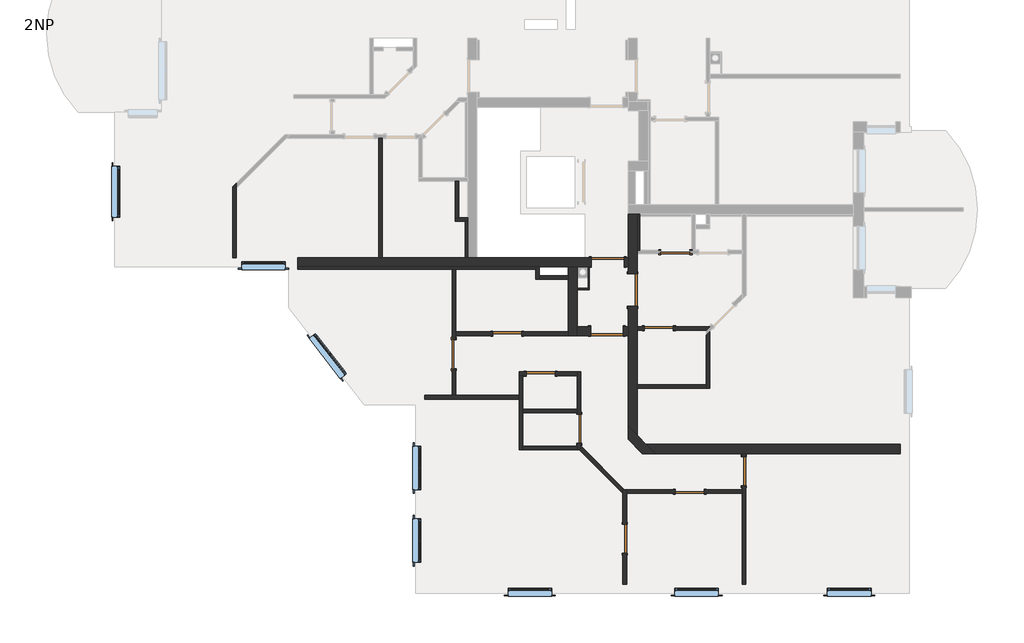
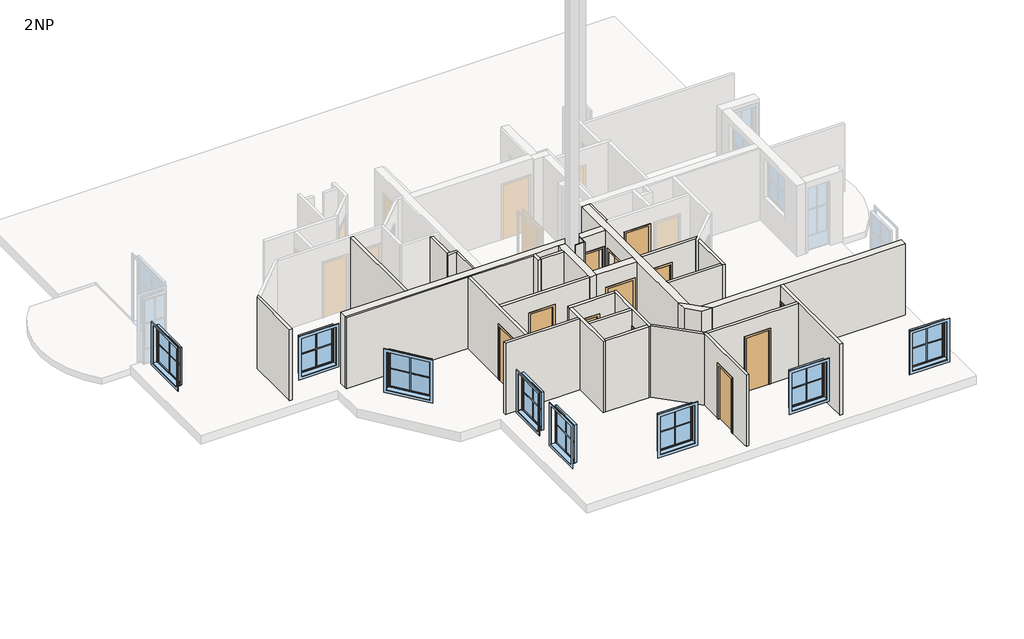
# One storey, part 1 of 4: 32 walls, 12 doors, 8 windows.
"""IFC4 building model written with IfcOpenShell, lengths in millimetres."""

import ifcopenshell
import ifcopenshell.guid

model = None  # the IFC model being written
_history = None  # IfcOwnerHistory: only IFC2X3 demands one
_inside = {}  # id of a spatial element -> (the spatial element, [elements in it])
_under = {}  # id of a project, library or spatial element -> (it, [spatial elements below it])
_declared = {}  # id of a project -> (the project, [libraries it declares])
_typed = {}  # id of a type object -> (the type object, [elements of that type])
_made_of = {}  # id of a material, layer set ... -> (it, [elements and type objects made of it])


def new_model(schema):
    """Start an empty IFC model of exactly this schema.

    Asked for "IFC4X3", IfcOpenShell would pick the latest addendum, in which some entities
    have other attributes; the version numbers below select the first issue.
    IFC2X3 requires an IfcOwnerHistory on every rooted entity: one is made here for all.
    """
    global model, _history
    if schema == "IFC4X3":
        model = ifcopenshell.file(schema_version=(4, 3, 0, 0))
    else:
        model = ifcopenshell.file(schema=schema)
    _inside.clear()
    _under.clear()
    _declared.clear()
    _typed.clear()
    _made_of.clear()
    _history = None
    if model.schema == "IFC2X3":
        org = make("IfcOrganization", Name="unknown")
        user = make(
            "IfcPersonAndOrganization",
            ThePerson=make("IfcPerson", FamilyName="unknown"),
            TheOrganization=org,
        )
        app = make(
            "IfcApplication",
            ApplicationDeveloper=org,
            Version="unknown",
            ApplicationFullName="unknown",
            ApplicationIdentifier="unknown",
        )
        _history = make(
            "IfcOwnerHistory",
            OwningUser=user,
            OwningApplication=app,
            ChangeAction="ADDED",
            CreationDate=0,
        )
    return model


def make(cls, **values):
    """One entity of the class cls with the attributes given. An attribute that is None is left unset."""
    return model.create_entity(
        cls, **{name: value for name, value in values.items() if value is not None}
    )


def rooted(cls, **values):
    """An entity with a GlobalId (a new one), such as an element, a storey or a relation."""
    return make(cls, GlobalId=ifcopenshell.guid.new(), OwnerHistory=_history, **values)


def si_unit(unit_type, name, prefix=None):
    """IfcSIUnit, for example si_unit("LENGTHUNIT", "METRE", prefix="MILLI")."""
    return make("IfcSIUnit", UnitType=unit_type, Prefix=prefix, Name=name)


def assignment(units):
    """IfcUnitAssignment: the units of a project."""
    return None if units is None else make("IfcUnitAssignment", Units=units)


def point(xyz):
    """IfcCartesianPoint."""
    return None if xyz is None else make("IfcCartesianPoint", Coordinates=xyz)


def direction(xyz):
    """IfcDirection."""
    return None if xyz is None else make("IfcDirection", DirectionRatios=xyz)


def frame(location, z_axis=None, x_axis=None):
    """IfcAxis2Placement3D, a coordinate frame: its origin and axes. An axis left out is left unset."""
    return make(
        "IfcAxis2Placement3D",
        Location=point(location),
        Axis=direction(z_axis),
        RefDirection=direction(x_axis),
    )


def origin():
    """The frame at (0, 0, 0) with its axes left unset."""
    return frame((0.0, 0.0, 0.0))


def origin_with_axes():
    """The frame at (0, 0, 0) with the z axis (0, 0, 1) and the x axis (1, 0, 0) written out."""
    return frame((0.0, 0.0, 0.0), z_axis=(0.0, 0.0, 1.0), x_axis=(1.0, 0.0, 0.0))


def place(relative_to, where):
    """IfcLocalPlacement: puts the frame where relative to a parent placement (None: the world)."""
    return make(
        "IfcLocalPlacement", PlacementRelTo=relative_to, RelativePlacement=where
    )


def context(
    kind, dimensions, precision=None, world=None, true_north=None, identifier=None
):
    """IfcGeometricRepresentationContext, for example the 3D "Model" context."""
    return make(
        "IfcGeometricRepresentationContext",
        ContextIdentifier=identifier,
        ContextType=kind,
        CoordinateSpaceDimension=dimensions,
        Precision=precision,
        WorldCoordinateSystem=world,
        TrueNorth=true_north,
    )


def project(units=None, contexts=None):
    """IfcProject with its units and contexts."""
    return rooted(
        "IfcProject",
        Name="project",
        RepresentationContexts=contexts,
        UnitsInContext=assignment(units),
    )


def spatial(cls, under=None, at=None, **own):
    """A site, building, storey or space (cls), placed at a placement, below another one or the project."""
    s = rooted(cls, ObjectPlacement=at, **own)
    if under is not None:
        _under.setdefault(under.id(), (under, []))[1].append(s)
    return s


def polyline(points):
    """IfcPolyline through the points."""
    return make("IfcPolyline", Points=[point(p) for p in points])


def outline(outer, holes=None, kind="AREA"):
    """IfcArbitraryClosedProfileDef: a profile drawn as a closed curve; with holes, ...WithVoids."""
    if holes is None:
        return make("IfcArbitraryClosedProfileDef", ProfileType=kind, OuterCurve=outer)
    return make(
        "IfcArbitraryProfileDefWithVoids",
        ProfileType=kind,
        OuterCurve=outer,
        InnerCurves=holes,
    )


def extrude(swept, where, along, depth):
    """IfcExtrudedAreaSolid: the profile swept, set in the frame where, extruded along a direction by depth."""
    return make(
        "IfcExtrudedAreaSolid",
        SweptArea=swept,
        Position=where,
        ExtrudedDirection=direction(along),
        Depth=depth,
    )


def faces_of(points, faces, orient=None, outer=None):
    """IfcFace entities. A face is a list of loops; a loop is a list of indices into points, from 0.

    orient and outer hold one flag for each loop. By default every Orientation is true, the
    first loop of a face is its IfcFaceOuterBound and the others are IfcFaceBound.
    """
    made = []
    for i, loops in enumerate(faces):
        bounds = []
        for j, loop in enumerate(loops):
            is_outer = j == 0 if outer is None else outer[i][j]
            bounds.append(
                make(
                    "IfcFaceOuterBound" if is_outer else "IfcFaceBound",
                    Bound=make("IfcPolyLoop", Polygon=[points[k] for k in loop]),
                    Orientation=True if orient is None else orient[i][j],
                )
            )
        made.append(make("IfcFace", Bounds=bounds))
    return made


def faceted_brep(points, faces, orient=None, outer=None, voids=None):
    """IfcFacetedBrep: a solid bounded by flat faces; with voids (closed shells), ...WithVoids."""
    shared = [point(p) for p in points]
    hull = make("IfcClosedShell", CfsFaces=faces_of(shared, faces, orient, outer))
    if voids is None:
        return make("IfcFacetedBrep", Outer=hull)
    return make(
        "IfcFacetedBrepWithVoids",
        Outer=hull,
        Voids=[
            make(cls, CfsFaces=faces_of(shared, fs, o, b)) for cls, fs, o, b in voids
        ],
    )


def shape(context_of_items, identifier, shape_type, items):
    """IfcShapeRepresentation: the items that make up one representation, for example the "Body"."""
    return make(
        "IfcShapeRepresentation",
        ContextOfItems=context_of_items,
        RepresentationIdentifier=identifier,
        RepresentationType=shape_type,
        Items=items,
    )


def source(mapping_origin, context_of_items, identifier, shape_type, items):
    """IfcRepresentationMap: a shape defined once, which mapped items show again and again."""
    return make(
        "IfcRepresentationMap",
        MappingOrigin=mapping_origin,
        MappedRepresentation=shape(context_of_items, identifier, shape_type, items),
    )


def transform(
    local_origin,
    x_axis=None,
    y_axis=None,
    z_axis=None,
    scale=None,
    scale2=None,
    scale3=None,
    uniform=True,
):
    """IfcCartesianTransformationOperator3D, or its non-uniform kind. x_axis, y_axis, z_axis: its Axis1, 2, 3."""
    if uniform:
        return make(
            "IfcCartesianTransformationOperator3D",
            Axis1=direction(x_axis),
            Axis2=direction(y_axis),
            LocalOrigin=point(local_origin),
            Scale=scale,
            Axis3=direction(z_axis),
        )
    return make(
        "IfcCartesianTransformationOperator3DnonUniform",
        Axis1=direction(x_axis),
        Axis2=direction(y_axis),
        LocalOrigin=point(local_origin),
        Scale=scale,
        Axis3=direction(z_axis),
        Scale2=scale2,
        Scale3=scale3,
    )


def mapped(mapping_source, mapping_target):
    """IfcMappedItem: shows the shape of a source again, moved by a transform."""
    return make(
        "IfcMappedItem", MappingSource=mapping_source, MappingTarget=mapping_target
    )


def made_of(thing, what):
    """Note that an element or type object is made of a material, layer set ...; save() writes the relation."""
    if what is not None:
        _made_of.setdefault(what.id(), (what, []))[1].append(thing)
    return thing


def element(
    cls,
    number,
    at=None,
    inside=None,
    cuts=None,
    type_object=None,
    material=None,
    context=None,
    identifier="Body",
    shape_type=None,
    held_by="IfcProductDefinitionShape",
    body=None,
    shapes=None,
    **own,
):
    """One element of the class cls, such as IfcWall. Its Tag is "e" and its number.

    at: its placement. inside: the storey or other place that contains it. cuts: it is an
    opening in that element (IfcRelVoidsElement). A single representation is given by context,
    identifier, shape_type and body (its items); several are given by shapes. held_by: the class
    of the entity that holds the representations. save() writes the other relations.
    """
    e = rooted(cls, Tag="e%d" % number, ObjectPlacement=at, **own)
    if body is not None:
        shapes = [shape(context, identifier, shape_type, body)]
    if shapes is not None:
        e.Representation = make(held_by, Representations=shapes)
    if inside is not None:
        _inside.setdefault(inside.id(), (inside, []))[1].append(e)
    if cuts is not None:
        rooted(
            "IfcRelVoidsElement", RelatingBuildingElement=cuts, RelatedOpeningElement=e
        )
    if type_object is not None:
        _typed.setdefault(type_object.id(), (type_object, []))[1].append(e)
    return made_of(e, material)


def aggregate(whole, parts):
    """IfcRelAggregates: a whole, such as a stair, and the parts it consists of."""
    return rooted("IfcRelAggregates", RelatingObject=whole, RelatedObjects=parts)


def save(model, path):
    """Write the relations noted so far, then the file.

    IfcRelAggregates (storeys below a building ...), IfcRelContainedInSpatialStructure (elements
    in a storey), IfcRelDefinesByType, IfcRelAssociatesMaterial and IfcRelDeclares: one each for
    every whole, place, type object, material and project.
    """
    for whole, parts in _under.values():
        aggregate(whole, parts)
    for where, things in _inside.values():
        rooted(
            "IfcRelContainedInSpatialStructure",
            RelatedElements=things,
            RelatingStructure=where,
        )
    for kind, things in _typed.values():
        rooted("IfcRelDefinesByType", RelatedObjects=things, RelatingType=kind)
    for what, things in _made_of.values():
        rooted("IfcRelAssociatesMaterial", RelatedObjects=things, RelatingMaterial=what)
    for by, libraries in _declared.values():
        rooted("IfcRelDeclares", RelatingContext=by, RelatedDefinitions=libraries)
    model.write(path)


def sd_800x2000_6a16926d(model_context):
    return source(origin(), model_context, "Body", "SweptSolid", [
        extrude(outline(polyline([(2060.0, -460.0), (0.0, -460.0), (0.0, -400.0), (2000.0, -400.0), (2000.0, 400.0), (0.0, 400.0), (0.0, 460.0), (2060.0, 460.0), (2060.0, -460.0)])), frame((0.0, -70.0, 0.0), z_axis=(0.0, 1.0, 0.0), x_axis=(0.0, 0.0, 1.0)), (0.0, 0.0, 1.0), 20.0),
        extrude(outline(polyline([(2060.0, 460.0), (2060.0, -460.0), (0.0, -460.0), (0.0, -400.0), (2000.0, -400.0), (2000.0, 400.0), (0.0, 400.0), (0.0, 460.0), (2060.0, 460.0)])), frame((0.0, 50.0, 0.0), z_axis=(0.0, 1.0, 0.0), x_axis=(0.0, 0.0, 1.0)), (0.0, 0.0, 1.0), 20.0),
        extrude(outline(polyline([(400.0, 0.0), (400.0, -50.0), (-400.0, -50.0), (-400.0, 0.0), (400.0, 0.0)])), origin_with_axes(), (0.0, 0.0, 1.0), 2000.0),
    ])


def sd_800x2000_80f4ff25(model_context):
    return source(origin(), model_context, "Body", "SweptSolid", [
        extrude(outline(polyline([(2060.0, -460.0), (0.0, -460.0), (0.0, -400.0), (2000.0, -400.0), (2000.0, 400.0), (0.0, 400.0), (0.0, 460.0), (2060.0, 460.0), (2060.0, -460.0)])), frame((0.0, 50.0, 0.0), z_axis=(0.0, 1.0, 0.0), x_axis=(0.0, 0.0, 1.0)), (0.0, 0.0, 1.0), 20.0),
        extrude(outline(polyline([(2060.0, 460.0), (2060.0, -460.0), (0.0, -460.0), (0.0, -400.0), (2000.0, -400.0), (2000.0, 400.0), (0.0, 400.0), (0.0, 460.0), (2060.0, 460.0)])), frame((0.0, -70.0, 0.0), z_axis=(0.0, 1.0, 0.0), x_axis=(0.0, 0.0, 1.0)), (0.0, 0.0, 1.0), 20.0),
        extrude(outline(polyline([(400.0, 0.0), (-400.0, 0.0), (-400.0, 50.0), (400.0, 50.0), (400.0, 0.0)])), origin_with_axes(), (0.0, 0.0, 1.0), 2000.0),
    ])


def sd_900x2000_a6683946(model_context):
    return source(origin(), model_context, "Body", "SweptSolid", [
        extrude(outline(polyline([(2060.0, -510.0), (0.0, -510.0), (0.0, -450.0), (2000.0, -450.0), (2000.0, 450.0), (0.0, 450.0), (0.0, 510.0), (2060.0, 510.0), (2060.0, -510.0)])), frame((0.0, -145.0, 0.0), z_axis=(0.0, 1.0, 0.0), x_axis=(0.0, 0.0, 1.0)), (0.0, 0.0, 1.0), 20.0),
        extrude(outline(polyline([(2060.0, 510.0), (2060.0, -510.0), (0.0, -510.0), (0.0, -450.0), (2000.0, -450.0), (2000.0, 450.0), (0.0, 450.0), (0.0, 510.0), (2060.0, 510.0)])), frame((0.0, 125.0, 0.0), z_axis=(0.0, 1.0, 0.0), x_axis=(0.0, 0.0, 1.0)), (0.0, 0.0, 1.0), 20.0),
        extrude(outline(polyline([(450.0, -75.0), (450.0, -125.0), (-450.0, -125.0), (-450.0, -75.0), (450.0, -75.0)])), origin_with_axes(), (0.0, 0.0, 1.0), 2000.0),
    ])


def sd_900x2000_4224ae2a(model_context):
    return source(origin(), model_context, "Body", "SweptSolid", [
        extrude(outline(polyline([(2060.0, -510.0), (0.0, -510.0), (0.0, -450.0), (2000.0, -450.0), (2000.0, 450.0), (0.0, 450.0), (0.0, 510.0), (2060.0, 510.0), (2060.0, -510.0)])), frame((0.0, 125.0, 0.0), z_axis=(0.0, 1.0, 0.0), x_axis=(0.0, 0.0, 1.0)), (0.0, 0.0, 1.0), 20.0),
        extrude(outline(polyline([(2060.0, 510.0), (2060.0, -510.0), (0.0, -510.0), (0.0, -450.0), (2000.0, -450.0), (2000.0, 450.0), (0.0, 450.0), (0.0, 510.0), (2060.0, 510.0)])), frame((0.0, -145.0, 0.0), z_axis=(0.0, 1.0, 0.0), x_axis=(0.0, 0.0, 1.0)), (0.0, 0.0, 1.0), 20.0),
        extrude(outline(polyline([(450.0, 75.0), (-450.0, 75.0), (-450.0, 125.0), (450.0, 125.0), (450.0, 75.0)])), origin_with_axes(), (0.0, 0.0, 1.0), 2000.0),
    ])


def standard_window_with_mullions_d3525f46(model_context):
    return source(origin(), model_context, "Body", "SweptSolid", [
        extrude(outline(polyline([(700.0, 26.9623738), (-700.0, 26.9623738), (-700.0, 180.0), (700.0, 180.0), (700.0, 26.9623738)])), frame((0.0, 0.0, 1000.0), z_axis=(0.0, 0.0, 1.0), x_axis=(1.0, 0.0, 0.0)), (0.0, 0.0, 1.0), 25.0),
        extrude(outline(polyline([(2500.0, -800.0), (900.0, -800.0), (900.0, 800.0), (2500.0, 800.0), (2500.0, -800.0)]), holes=[polyline([(2400.0, -700.0), (2400.0, 700.0), (1000.0, 700.0), (1000.0, -700.0), (2400.0, -700.0)])]), frame((0.0, 150.0, 0.0), z_axis=(0.0, 1.0, 0.0), x_axis=(0.0, 0.0, 1.0)), (0.0, 0.0, 1.0), 15.0),
        extrude(outline(polyline([(2375.0, -675.0), (1025.0, -675.0), (1025.0, 675.0), (2375.0, 675.0), (2375.0, -675.0)]), holes=[polyline([(2340.0, -640.0), (2340.0, 640.0), (1060.0, 640.0), (1060.0, -640.0), (2340.0, -640.0)])]), frame((0.0, -39.0188131, 0.0), z_axis=(0.0, 1.0, 0.0), x_axis=(0.0, 0.0, 1.0)), (0.0, 0.0, 1.0), 50.5),
        extrude(outline(polyline([(1000.0, -700.0), (1000.0, 700.0), (2400.0, 700.0), (2400.0, -700.0), (1000.0, -700.0)]), holes=[polyline([(1025.0, -675.0), (2375.0, -675.0), (2375.0, 675.0), (1025.0, 675.0), (1025.0, -675.0)])]), frame((0.0, -39.0188131, 0.0), z_axis=(0.0, 1.0, 0.0), x_axis=(0.0, 0.0, 1.0)), (0.0, 0.0, 1.0), 65.9811869),
        extrude(outline(polyline([(1715.0, 640.0), (1715.0, 15.0), (2340.0, 15.0), (2340.0, -15.0), (1715.0, -15.0), (1715.0, -640.0), (1685.0, -640.0), (1685.0, -15.0), (1060.0, -15.0), (1060.0, 15.0), (1685.0, 15.0), (1685.0, 640.0), (1715.0, 640.0)])), frame((0.0, -28.5188131, 0.0), z_axis=(0.0, 1.0, 0.0), x_axis=(0.0, 0.0, 1.0)), (0.0, 0.0, 1.0), 20.0),
        extrude(outline(polyline([(640.0, -15.5188131), (-640.0, -15.5188131), (-640.0, -13.5188131), (640.0, -13.5188131), (640.0, -15.5188131)])), frame((0.0, 0.0, 1060.0), z_axis=(0.0, 0.0, 1.0), x_axis=(1.0, 0.0, 0.0)), (0.0, 0.0, 1.0), 1280.0),
    ])


def standard_window_with_mullions_80486b60(model_context):
    return source(origin(), model_context, "Body", "SweptSolid", [
        extrude(outline(polyline([(600.0, 26.9623738), (-600.0, 26.9623738), (-600.0, 180.0), (600.0, 180.0), (600.0, 26.9623738)])), frame((0.0, 0.0, 1000.0), z_axis=(0.0, 0.0, 1.0), x_axis=(1.0, 0.0, 0.0)), (0.0, 0.0, 1.0), 25.0),
        extrude(outline(polyline([(2500.0, -700.0), (900.0, -700.0), (900.0, 700.0), (2500.0, 700.0), (2500.0, -700.0)]), holes=[polyline([(2400.0, -600.0), (2400.0, 600.0), (1000.0, 600.0), (1000.0, -600.0), (2400.0, -600.0)])]), frame((0.0, 150.0, 0.0), z_axis=(0.0, 1.0, 0.0), x_axis=(0.0, 0.0, 1.0)), (0.0, 0.0, 1.0), 15.0),
        extrude(outline(polyline([(2375.0, -575.0), (1025.0, -575.0), (1025.0, 575.0), (2375.0, 575.0), (2375.0, -575.0)]), holes=[polyline([(2340.0, -540.0), (2340.0, 540.0), (1060.0, 540.0), (1060.0, -540.0), (2340.0, -540.0)])]), frame((0.0, -39.0188131, 0.0), z_axis=(0.0, 1.0, 0.0), x_axis=(0.0, 0.0, 1.0)), (0.0, 0.0, 1.0), 50.5),
        extrude(outline(polyline([(1000.0, -600.0), (1000.0, 600.0), (2400.0, 600.0), (2400.0, -600.0), (1000.0, -600.0)]), holes=[polyline([(1025.0, -575.0), (2375.0, -575.0), (2375.0, 575.0), (1025.0, 575.0), (1025.0, -575.0)])]), frame((0.0, -39.0188131, 0.0), z_axis=(0.0, 1.0, 0.0), x_axis=(0.0, 0.0, 1.0)), (0.0, 0.0, 1.0), 65.9811869),
        extrude(outline(polyline([(1715.0, 540.0), (1715.0, 15.0), (2340.0, 15.0), (2340.0, -15.0), (1715.0, -15.0), (1715.0, -540.0), (1685.0, -540.0), (1685.0, -15.0), (1060.0, -15.0), (1060.0, 15.0), (1685.0, 15.0), (1685.0, 540.0), (1715.0, 540.0)])), frame((0.0, -28.5188131, 0.0), z_axis=(0.0, 1.0, 0.0), x_axis=(0.0, 0.0, 1.0)), (0.0, 0.0, 1.0), 20.0),
        extrude(outline(polyline([(540.0, -15.5188131), (-540.0, -15.5188131), (-540.0, -13.5188131), (540.0, -13.5188131), (540.0, -15.5188131)])), frame((0.0, 0.0, 1060.0), z_axis=(0.0, 0.0, 1.0), x_axis=(1.0, 0.0, 0.0)), (0.0, 0.0, 1.0), 1280.0),
    ])


model = new_model("IFC4")

# Units and contexts
model_context = context("Model", 3, world=origin())
ifc_project = project(units=[si_unit("LENGTHUNIT", "METRE", prefix="MILLI")], contexts=[model_context])

# Site, building, storey
site = spatial("IfcSite", under=ifc_project)
building = spatial("IfcBuilding", under=site)
storey = spatial("IfcBuildingStorey", under=building, Name="2NP", Elevation=2950.0)

# Doors
placement = place(None, origin())
sd_800x2000_shape = sd_800x2000_6a16926d(model_context)
element("IfcDoor", 1, ObjectType="JednokridlePlne : SD 800x2000", at=placement, inside=storey, context=model_context, shape_type="MappedRepresentation", body=[
    mapped(sd_800x2000_shape, transform((3260.550214, -8282.3709459, 2950.0), x_axis=(0.9999999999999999, 0.0, 0.0), y_axis=(0.0, 0.9999999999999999, 0.0), z_axis=(0.0, 0.0, 1.0))),
])
sd_800x2000_2_shape = sd_800x2000_80f4ff25(model_context)
element("IfcDoor", 2, ObjectType="JednokridlePlne : SD 800x2000", at=placement, inside=storey, context=model_context, shape_type="MappedRepresentation", body=[
    mapped(sd_800x2000_2_shape, transform((2865.7332503, -1682.3709459, 2950.0), x_axis=(-1.0, 0.0, 0.0), y_axis=(0.0, -1.0, 0.0), z_axis=(0.0, 0.0, 1.0))),
])
element("IfcDoor", 3, ObjectType="JednokridlePlne : SD 800x2000", at=placement, inside=storey, context=model_context, shape_type="MappedRepresentation", body=[
    mapped(sd_800x2000_2_shape, transform((2412.0268037, -3782.3709459, 2950.0), x_axis=(1.0, 0.0, 0.0), y_axis=(0.0, 1.0, 0.0), z_axis=(0.0, 0.0, 1.0))),
])
element("IfcDoor", 4, ObjectType="JednokridlePlne : SD 800x2000", at=placement, inside=storey, context=model_context, shape_type="MappedRepresentation", body=[
    mapped(sd_800x2000_2_shape, transform((-1766.5169517, -3932.3709459, 2950.0), x_axis=(1.0, 0.0, 0.0), y_axis=(0.0, 1.0, 0.0), z_axis=(0.0, 0.0, 1.0))),
])
element("IfcDoor", 5, ObjectType="JednokridlePlne : SD 800x2000", at=placement, inside=storey, context=model_context, shape_type="MappedRepresentation", body=[
    mapped(sd_800x2000_2_shape, transform((-847.1962165, -5032.3709459, 2950.0), x_axis=(1.0, 0.0, 0.0), y_axis=(0.0, 1.0, 0.0), z_axis=(0.0, 0.0, 1.0))),
])
element("IfcDoor", 6, ObjectType="JednokridlePlne : SD 800x2000", at=placement, inside=storey, context=model_context, shape_type="MappedRepresentation", body=[
    mapped(sd_800x2000_2_shape, transform((-3237.1962165, -4492.2910381, 2950.0), x_axis=(0.0, 1.0, 0.0), y_axis=(-1.0, 0.0, 0.0), z_axis=(0.0, 0.0, 1.0))),
])
element("IfcDoor", 7, ObjectType="JednokridlePlne : SD 800x2000", at=placement, inside=storey, context=model_context, shape_type="MappedRepresentation", body=[
    mapped(sd_800x2000_2_shape, transform((212.8037835, -6551.9513234, 2950.0), x_axis=(0.0, -1.0, 0.0), y_axis=(1.0, 0.0, 0.0), z_axis=(0.0, 0.0, 1.0))),
])
element("IfcDoor", 8, ObjectType="JednokridlePlne : SD 800x2000", at=placement, inside=storey, context=model_context, shape_type="MappedRepresentation", body=[
    mapped(sd_800x2000_2_shape, transform((4753.039213, -7722.1014891, 2950.0), x_axis=(0.0, -1.0, 0.0), y_axis=(1.0, 0.0, 0.0), z_axis=(0.0, 0.0, 1.0))),
])
element("IfcDoor", 9, ObjectType="JednokridlePlne : SD 800x2000", at=placement, inside=storey, context=model_context, shape_type="MappedRepresentation", body=[
    mapped(sd_800x2000_2_shape, transform((1471.3824272, -9582.3709459, 2950.0), x_axis=(0.0, -0.9999999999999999, 0.0), y_axis=(0.9999999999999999, 0.0, 0.0), z_axis=(0.0, 0.0, 1.0))),
])
sd_900x2000_shape = sd_900x2000_a6683946(model_context)
element("IfcDoor", 10, ObjectType="JednokridlePlne : SD 900x2000", at=placement, inside=storey, context=model_context, shape_type="MappedRepresentation", body=[
    mapped(sd_900x2000_shape, transform((1002.8073371, -1957.3709459, 2950.0), x_axis=(-1.0, 0.0, 0.0), y_axis=(0.0, -1.0, 0.0), z_axis=(0.0, 0.0, 1.0))),
])
sd_900x2000_2_shape = sd_900x2000_4224ae2a(model_context)
element("IfcDoor", 11, ObjectType="JednokridlePlne : SD 900x2000", at=placement, inside=storey, context=model_context, shape_type="MappedRepresentation", body=[
    mapped(sd_900x2000_2_shape, transform((980.1794135, -3857.3709459, 2950.0), x_axis=(-1.0, 0.0, 0.0), y_axis=(0.0, -1.0, 0.0), z_axis=(0.0, 0.0, 1.0))),
])
element("IfcDoor", 12, ObjectType="JednokridlePlne : SD 900x2000", at=placement, inside=storey, context=model_context, shape_type="MappedRepresentation", body=[
    mapped(sd_900x2000_2_shape, transform((1687.8070318, -2727.079256, 2950.0), x_axis=(-8.145451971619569e-07, -0.9999999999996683, 0.0), y_axis=(0.9999999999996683, -8.145451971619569e-07, 0.0), z_axis=(0.0, 0.0, 1.0))),
])

# Walls
element("IfcWall", 13, ObjectType="Interior - 100mm", at=placement, inside=storey, context=model_context, shape_type="SweptSolid", body=[
    extrude(outline(polyline([(-3207.1962165, -732.3709459), (-3207.1962165, 267.6290541), (-3107.1962165, 267.6290541), (-3107.1962165, -732.3709459), (-3207.1962165, -732.3709459)])), frame((0.0, 0.0, 2950.0), z_axis=(0.0, 0.0, 1.0), x_axis=(1.0, 0.0, 0.0)), (0.0, 0.0, 1.0), 2630.0),
])
element("IfcWall", 14, ObjectType="Interior - 100mm", at=placement, inside=storey, context=model_context, shape_type="Brep", body=[
    faceted_brep([(-3207.1962165, -832.3709459, 2950.0), (-2922.1962165, -832.3709459, 2950.0), (-2857.1962165, -832.3709459, 2950.0), (-2857.1962165, -832.3709459, 5580.0), (-2922.1962165, -832.3709459, 5580.0), (-3207.1962165, -832.3709459, 5580.0), (-3207.1962165, -732.3709459, 2950.0), (-3207.1962165, -732.3709459, 5580.0), (-3107.1962165, -732.3709459, 5580.0), (-2857.1962165, -732.3709459, 5580.0), (-2857.1962165, -732.3709459, 2950.0), (-3107.1962165, -732.3709459, 2950.0)], [[[0, 1, 2, 3, 4, 5]], [[6, 7, 8, 9, 10, 11]], [[2, 1, 0, 6, 11, 10]], [[0, 5, 7, 6]], [[3, 2, 10, 9]], [[5, 4, 3, 9, 8, 7]]]),
])
element("IfcWall", 15, ObjectType="Interior - 100mm", at=placement, inside=storey, context=model_context, shape_type="Brep", body=[
    faceted_brep([(-986.4381272, -2082.3709459, 2950.0), (-986.4381272, -2147.3709459, 2950.0), (-986.4381272, -2432.3709459, 2950.0), (-986.4381272, -2432.3709459, 5580.0), (-986.4381272, -2147.3709459, 5580.0), (-986.4381272, -2082.3709459, 5580.0), (-886.4381272, -2082.3709459, 2950.0), (-886.4381272, -2082.3709459, 5580.0), (-886.4381272, -2332.3709459, 5580.0), (-886.4381272, -2432.3709459, 5580.0), (-886.4381272, -2432.3709459, 2950.0), (-886.4381272, -2332.3709459, 2950.0)], [[[0, 1, 2, 3, 4, 5]], [[6, 7, 8, 9, 10, 11]], [[2, 1, 0, 6, 11, 10]], [[3, 2, 10, 9]], [[0, 5, 7, 6]], [[5, 4, 3, 9, 8, 7]]]),
])
element("IfcWall", 16, ObjectType="Interior - 100mm", at=placement, inside=storey, context=model_context, shape_type="SweptSolid", body=[
    extrude(outline(polyline([(-86.4381272, -2432.3709459), (-886.4381272, -2432.3709459), (-886.4381272, -2332.3709459), (-86.4381272, -2332.3709459), (-86.4381272, -2432.3709459)])), frame((0.0, 0.0, 2950.0), z_axis=(0.0, 0.0, 1.0), x_axis=(1.0, 0.0, 0.0)), (0.0, 0.0, 1.0), 2630.0),
])
element("IfcWall", 17, ObjectType="Interior - 100mm", at=placement, inside=storey, context=model_context, shape_type="Brep", body=[
    faceted_brep([(4703.039213, -10832.3709459, 2950.0), (4703.039213, -10832.3709459, 5580.0), (4703.039213, -8332.3709459, 5580.0), (4703.039213, -8232.3709459, 5580.0), (4703.039213, -7232.3709459, 5580.0), (4703.039213, -7232.3709459, 2950.0), (4703.039213, -7322.1014891, 2950.0), (4703.039213, -7322.1014891, 4950.0), (4703.039213, -8122.1014891, 4950.0), (4703.039213, -8122.1014891, 2950.0), (4703.039213, -8232.3709459, 2950.0), (4703.039213, -8332.3709459, 2950.0), (4803.039213, -10832.3709459, 5580.0), (4803.039213, -10832.3709459, 2950.0), (4803.039213, -8122.1014891, 2950.0), (4803.039213, -8122.1014891, 4950.0), (4803.039213, -7322.1014891, 4950.0), (4803.039213, -7322.1014891, 2950.0), (4803.039213, -7232.3709459, 2950.0), (4803.039213, -7232.3709459, 5580.0)], [[[0, 1, 2, 3, 4, 5, 6, 7, 8, 9, 10, 11]], [[12, 13, 14, 15, 16, 17, 18, 19]], [[13, 0, 11, 10, 9, 14]], [[5, 18, 17, 6]], [[1, 0, 13, 12]], [[5, 4, 19, 18]], [[4, 3, 2, 1, 12, 19]], [[8, 15, 14, 9]], [[15, 8, 7, 16]], [[16, 7, 6, 17]]]),
])
element("IfcWall", 18, ObjectType="Interior - 100mm", at=placement, inside=storey, context=model_context, shape_type="Brep", body=[
    faceted_brep([(1421.3824272, -9982.3709459, 4950.0), (1421.3824272, -9982.3709459, 2950.0), (1421.3824272, -10832.3709459, 2950.0), (1421.3824272, -10832.3709459, 5580.0), (1421.3824272, -8332.3709459, 5580.0), (1421.3824272, -8190.9495897, 5580.0), (1421.3824272, -8190.9495897, 2950.0), (1421.3824272, -8332.3709459, 2950.0), (1421.3824272, -9182.3709459, 2950.0), (1421.3824272, -9182.3709459, 4950.0), (1521.3824272, -10832.3709459, 2950.0), (1521.3824272, -9982.3709459, 2950.0), (1521.3824272, -9982.3709459, 4950.0), (1521.3824272, -9182.3709459, 4950.0), (1521.3824272, -9182.3709459, 2950.0), (1521.3824272, -8332.3709459, 2950.0), (1521.3824272, -8290.9495897, 2950.0), (1521.3824272, -8290.9495897, 5580.0), (1521.3824272, -8332.3709459, 5580.0), (1521.3824272, -10832.3709459, 5580.0), (1462.8037835, -8232.3709459, 2950.0), (1462.8037835, -8232.3709459, 5580.0)], [[[0, 1, 2, 3, 4, 5, 6, 7, 8, 9]], [[10, 11, 12, 13, 14, 15, 16, 17, 18, 19]], [[2, 1, 11, 10]], [[8, 7, 6, 20, 16, 15, 14]], [[6, 5, 21, 17, 16, 20]], [[3, 2, 10, 19]], [[5, 4, 3, 19, 18, 17, 21]], [[12, 11, 1, 0]], [[13, 12, 0, 9]], [[14, 13, 9, 8]]]),
])
element("IfcWall", 19, ObjectType="Interior - 100mm", at=placement, inside=storey, context=model_context, shape_type="Brep", body=[
    faceted_brep([(3712.8037835, -3973.7923022, 2950.0), (3712.8037835, -5332.3709459, 2950.0), (3712.8037835, -5432.3709459, 2950.0), (3712.8037835, -5432.3709459, 5580.0), (3712.8037835, -5332.3709459, 5580.0), (3712.8037835, -3973.7923022, 5580.0), (3812.8037835, -3873.7923022, 2950.0), (3812.8037835, -3873.7923022, 5580.0), (3812.8037835, -5432.3709459, 5580.0), (3812.8037835, -5432.3709459, 2950.0)], [[[0, 1, 2, 3, 4, 5]], [[6, 7, 8, 9]], [[2, 1, 0, 6, 9]], [[3, 2, 9, 8]], [[0, 5, 7, 6]], [[5, 4, 3, 8, 7]]]),
])
element("IfcWall", 20, ObjectType="Interior - 100mm", at=placement, inside=storey, context=model_context, shape_type="SweptSolid", body=[
    extrude(outline(polyline([(1812.8049097, -5332.3709459), (3712.8037835, -5332.3709459), (3712.8037835, -5432.3709459), (1812.8048282, -5432.3709459), (1812.8049097, -5332.3709459)])), frame((0.0, 0.0, 2950.0), z_axis=(0.0, 0.0, 1.0), x_axis=(1.0, 0.0, 0.0)), (0.0, 0.0, 1.0), 2630.0),
])
element("IfcWall", 21, ObjectType="Interior - 100mm", at=placement, inside=storey, context=model_context, shape_type="Brep", body=[
    faceted_brep([(3812.8037835, -3732.3709459, 2950.0), (2812.0268037, -3732.3709459, 2950.0), (2812.0268037, -3732.3709459, 4950.0), (2012.0268037, -3732.3709459, 4950.0), (2012.0268037, -3732.3709459, 2950.0), (1812.806213, -3732.3709459, 2950.0), (1812.806213, -3732.3709459, 5580.0), (3812.8037835, -3732.3709459, 5580.0), (2812.0268037, -3832.3709459, 4950.0), (2812.0268037, -3832.3709459, 2950.0), (3712.8037835, -3832.3709459, 2950.0), (3712.8037835, -3832.3709459, 5580.0), (1812.8061315, -3832.3709459, 5580.0), (1812.8061315, -3832.3709459, 2950.0), (2012.0268037, -3832.3709459, 2950.0), (2012.0268037, -3832.3709459, 4950.0)], [[[0, 1, 2, 3, 4, 5, 6, 7]], [[8, 9, 10, 11, 12, 13, 14, 15]], [[10, 9, 1, 0]], [[14, 13, 5, 4]], [[6, 5, 13, 12]], [[0, 7, 11, 10]], [[7, 6, 12, 11]], [[2, 1, 9, 8]], [[3, 2, 8, 15]], [[4, 3, 15, 14]]]),
])
element("IfcWall", 22, ObjectType="Interior - 100mm", at=placement, inside=storey, context=model_context, shape_type="Brep", body=[
    faceted_brep([(-9237.1962165, -1832.3709459, 2950.0), (-9237.1962165, 79.390695, 2950.0), (-9237.1962165, 220.8120513, 2950.0), (-9237.1962165, 220.8120513, 5580.0), (-9237.1962165, 79.390695, 5580.0), (-9237.1962165, -1832.3709459, 5580.0), (-9337.1962165, -1832.3709459, 2950.0), (-9337.1962165, -1832.3709459, 5580.0), (-9337.1962165, 120.8120513, 5580.0), (-9337.1962165, 120.8120513, 2950.0)], [[[0, 1, 2, 3, 4, 5]], [[6, 7, 8, 9]], [[2, 1, 0, 6, 9]], [[3, 2, 9, 8]], [[0, 5, 7, 6]], [[5, 4, 3, 8, 7]]]),
])
element("IfcWall", 23, ObjectType="Interior - 100mm", at=placement, inside=storey, context=model_context, shape_type="SweptSolid", body=[
    extrude(outline(polyline([(-5207.1962165, 1459.6332748), (-5207.1962165, -1832.3709459), (-5307.1962165, -1832.3709459), (-5307.1962165, 1459.6332748), (-5207.1962165, 1459.6332748)])), frame((0.0, 0.0, 2950.0), z_axis=(0.0, 0.0, 1.0), x_axis=(1.0, 0.0, 0.0)), (0.0, 0.0, 1.0), 2630.0),
])
element("IfcWall", 24, ObjectType="Interior - 100mm", at=placement, inside=storey, context=model_context, shape_type="Brep", body=[
    faceted_brep([(4703.039213, -8232.3709459, 2950.0), (3660.550214, -8232.3709459, 2950.0), (3660.550214, -8232.3709459, 4950.0), (2860.550214, -8232.3709459, 4950.0), (2860.550214, -8232.3709459, 2950.0), (1462.8037835, -8232.3709459, 2950.0), (1462.8037835, -8232.3709459, 5580.0), (4703.039213, -8232.3709459, 5580.0), (3660.550214, -8332.3709459, 4950.0), (3660.550214, -8332.3709459, 2950.0), (4703.039213, -8332.3709459, 2950.0), (4703.039213, -8332.3709459, 5580.0), (1521.3824272, -8332.3709459, 5580.0), (1521.3824272, -8332.3709459, 2950.0), (2860.550214, -8332.3709459, 2950.0), (2860.550214, -8332.3709459, 4950.0), (1521.3824272, -8290.9495897, 2950.0), (1521.3824272, -8290.9495897, 5580.0)], [[[0, 1, 2, 3, 4, 5, 6, 7]], [[8, 9, 10, 11, 12, 13, 14, 15]], [[10, 9, 1, 0]], [[14, 13, 16, 5, 4]], [[0, 7, 11, 10]], [[6, 5, 16, 17]], [[16, 13, 12, 17]], [[7, 6, 17, 12, 11]], [[2, 1, 9, 8]], [[3, 2, 8, 15]], [[4, 3, 15, 14]]]),
])
element("IfcWall", 25, ObjectType="Interior - 100mm", at=placement, inside=storey, context=model_context, shape_type="SweptSolid", body=[
    extrude(outline(polyline([(1421.3824272, -8332.3709459), (221.3824272, -7132.3709459), (292.0931053, -7061.6602678), (1421.3824272, -8190.9495897), (1421.3824272, -8332.3709459)])), frame((0.0, 0.0, 2950.0), z_axis=(0.0, 0.0, 1.0), x_axis=(1.0, 0.0, 0.0)), (0.0, 0.0, 1.0), 2630.0),
])
element("IfcWall", 26, ObjectType="Interior - 100mm", at=placement, inside=storey, context=model_context, shape_type="Brep", body=[
    faceted_brep([(-447.1962165, -5082.3709459, 4950.0), (-447.1962165, -5082.3709459, 2950.0), (162.8037835, -5082.3709459, 2950.0), (162.8037835, -5082.3709459, 5580.0), (-1337.1962165, -5082.3709459, 5580.0), (-1437.1962165, -5082.3709459, 5580.0), (-1437.1962165, -5082.3709459, 2950.0), (-1337.1962165, -5082.3709459, 2950.0), (-1247.1962165, -5082.3709459, 2950.0), (-1247.1962165, -5082.3709459, 4950.0), (162.8037835, -4982.3709459, 2950.0), (-447.1962165, -4982.3709459, 2950.0), (-447.1962165, -4982.3709459, 4950.0), (-1247.1962165, -4982.3709459, 4950.0), (-1247.1962165, -4982.3709459, 2950.0), (-1437.1962165, -4982.3709459, 2950.0), (-1437.1962165, -4982.3709459, 5580.0), (162.8037835, -4982.3709459, 5580.0)], [[[0, 1, 2, 3, 4, 5, 6, 7, 8, 9]], [[10, 11, 12, 13, 14, 15, 16, 17]], [[2, 1, 11, 10]], [[8, 7, 6, 15, 14]], [[6, 5, 16, 15]], [[3, 2, 10, 17]], [[5, 4, 3, 17, 16]], [[12, 11, 1, 0]], [[13, 12, 0, 9]], [[14, 13, 9, 8]]]),
])
element("IfcWall", 27, ObjectType="Interior - 100mm", at=placement, inside=storey, context=model_context, shape_type="Brep", body=[
    faceted_brep([(-1337.1962165, -7132.3709459, 2950.0), (-1337.1962165, -7032.3709459, 2950.0), (-1337.1962165, -6112.3709459, 2950.0), (-1337.1962165, -6012.3709459, 2950.0), (-1337.1962165, -5082.3709459, 2950.0), (-1337.1962165, -5082.3709459, 5580.0), (-1337.1962165, -6012.3709459, 5580.0), (-1337.1962165, -6112.3709459, 5580.0), (-1337.1962165, -7032.3709459, 5580.0), (-1337.1962165, -7132.3709459, 5580.0), (-1437.1962165, -7132.3709459, 2950.0), (-1437.1962165, -7132.3709459, 5580.0), (-1437.1962165, -5732.3709459, 5580.0), (-1437.1962165, -5632.3709459, 5580.0), (-1437.1962165, -5082.3709459, 5580.0), (-1437.1962165, -5082.3709459, 2950.0), (-1437.1962165, -5632.3709459, 2950.0), (-1437.1962165, -5732.3709459, 2950.0)], [[[0, 1, 2, 3, 4, 5, 6, 7, 8, 9]], [[10, 11, 12, 13, 14, 15, 16, 17]], [[4, 3, 2, 1, 0, 10, 17, 16, 15]], [[0, 9, 11, 10]], [[5, 4, 15, 14]], [[9, 8, 7, 6, 5, 14, 13, 12, 11]]]),
])
element("IfcWall", 28, ObjectType="Interior - 100mm", at=placement, inside=storey, context=model_context, shape_type="SweptSolid", body=[
    extrude(outline(polyline([(-1337.1962165, -7032.3709459), (162.8037835, -7032.3709459), (162.8037835, -7132.3709459), (-1337.1962165, -7132.3709459), (-1337.1962165, -7032.3709459)])), frame((0.0, 0.0, 2950.0), z_axis=(0.0, 0.0, 1.0), x_axis=(1.0, 0.0, 0.0)), (0.0, 0.0, 1.0), 2630.0),
])
element("IfcWall", 29, ObjectType="Interior - 100mm", at=placement, inside=storey, context=model_context, shape_type="Brep", body=[
    faceted_brep([(162.8037835, -6951.9513234, 4950.0), (162.8037835, -6951.9513234, 2950.0), (162.8037835, -7032.3709459, 2950.0), (162.8037835, -7132.3709459, 2950.0), (162.8037835, -7132.3709459, 5580.0), (162.8037835, -7032.3709459, 5580.0), (162.8037835, -6112.3709459, 5580.0), (162.8037835, -6012.3709459, 5580.0), (162.8037835, -5082.3709459, 5580.0), (162.8037835, -4982.3709459, 5580.0), (162.8037835, -4982.3709459, 2950.0), (162.8037835, -5082.3709459, 2950.0), (162.8037835, -6012.3709459, 2950.0), (162.8037835, -6112.3709459, 2950.0), (162.8037835, -6151.9513234, 2950.0), (162.8037835, -6151.9513234, 4950.0), (262.8037835, -7132.3709459, 2950.0), (262.8037835, -6951.9513234, 2950.0), (262.8037835, -6951.9513234, 4950.0), (262.8037835, -6151.9513234, 4950.0), (262.8037835, -6151.9513234, 2950.0), (262.8037835, -4982.3709459, 2950.0), (262.8037835, -4982.3709459, 5580.0), (262.8037835, -7132.3709459, 5580.0)], [[[0, 1, 2, 3, 4, 5, 6, 7, 8, 9, 10, 11, 12, 13, 14, 15]], [[16, 17, 18, 19, 20, 21, 22, 23]], [[3, 2, 1, 17, 16]], [[14, 13, 12, 11, 10, 21, 20]], [[10, 9, 22, 21]], [[4, 3, 16, 23]], [[9, 8, 7, 6, 5, 4, 23, 22]], [[18, 17, 1, 0]], [[19, 18, 0, 15]], [[20, 19, 15, 14]]]),
])
element("IfcWall", 30, ObjectType="Interior - 100mm", at=placement, inside=storey, context=model_context, shape_type="SweptSolid", body=[
    extrude(outline(polyline([(162.8037835, -6112.3709459), (-1337.1962165, -6112.3709459), (-1337.1962165, -6012.3709459), (162.8037835, -6012.3709459), (162.8037835, -6112.3709459)])), frame((0.0, 0.0, 2950.0), z_axis=(0.0, 0.0, 1.0), x_axis=(1.0, 0.0, 0.0)), (0.0, 0.0, 1.0), 2630.0),
])
element("IfcWall", 31, ObjectType="Interior - 100mm", at=placement, inside=storey, context=model_context, shape_type="Brep", body=[
    faceted_brep([(-4037.1962165, -5732.3709459, 2950.0), (-1437.1962165, -5732.3709459, 2950.0), (-1437.1962165, -5732.3709459, 5580.0), (-4037.1962165, -5732.3709459, 5580.0), (-4037.1962165, -5632.3709459, 2950.0), (-4037.1962165, -5632.3709459, 5580.0), (-3287.1962165, -5632.3709459, 5580.0), (-3187.1962165, -5632.3709459, 5580.0), (-1437.1962165, -5632.3709459, 5580.0), (-1437.1962165, -5632.3709459, 2950.0), (-3187.1962165, -5632.3709459, 2950.0), (-3287.1962165, -5632.3709459, 2950.0)], [[[0, 1, 2, 3]], [[4, 5, 6, 7, 8, 9, 10, 11]], [[1, 0, 4, 11, 10, 9]], [[2, 1, 9, 8]], [[0, 3, 5, 4]], [[3, 2, 8, 7, 6, 5]]]),
])
element("IfcWall", 32, ObjectType="Interior - 100mm", at=placement, inside=storey, context=model_context, shape_type="Brep", body=[
    faceted_brep([(-3287.1962165, -2147.3709459, 2950.0), (-3287.1962165, -4092.2910381, 2950.0), (-3287.1962165, -4092.2910381, 4950.0), (-3287.1962165, -4892.2910381, 4950.0), (-3287.1962165, -4892.2910381, 2950.0), (-3287.1962165, -5632.3709459, 2950.0), (-3287.1962165, -5632.3709459, 5580.0), (-3287.1962165, -2147.3709459, 5580.0), (-3187.1962165, -4092.2910381, 4950.0), (-3187.1962165, -4092.2910381, 2950.0), (-3187.1962165, -3982.3709459, 2950.0), (-3187.1962165, -3882.3709459, 2950.0), (-3187.1962165, -2147.3709459, 2950.0), (-3187.1962165, -2147.3709459, 5580.0), (-3187.1962165, -3882.3709459, 5580.0), (-3187.1962165, -3982.3709459, 5580.0), (-3187.1962165, -5632.3709459, 5580.0), (-3187.1962165, -5632.3709459, 2950.0), (-3187.1962165, -4892.2910381, 2950.0), (-3187.1962165, -4892.2910381, 4950.0)], [[[0, 1, 2, 3, 4, 5, 6, 7]], [[8, 9, 10, 11, 12, 13, 14, 15, 16, 17, 18, 19]], [[12, 11, 10, 9, 1, 0]], [[18, 17, 5, 4]], [[0, 7, 13, 12]], [[6, 5, 17, 16]], [[7, 6, 16, 15, 14, 13]], [[2, 1, 9, 8]], [[3, 2, 8, 19]], [[4, 3, 19, 18]]]),
])
element("IfcWall", 33, ObjectType="Interior - 100mm", at=placement, inside=storey, context=model_context, shape_type="SweptSolid", body=[
    extrude(outline(polyline([(4950.0, -1366.5169517), (2950.0, -1366.5169517), (2950.0, -86.4381272), (5580.0, -86.4381272), (5580.0, -3187.1962165), (2950.0, -3187.1962165), (2950.0, -2166.5169517), (4950.0, -2166.5169517), (4950.0, -1366.5169517)])), frame((0.0, -3982.3709459, 0.0), z_axis=(0.0, 1.0, 0.0), x_axis=(0.0, 0.0, 1.0)), (0.0, 0.0, 1.0), 100.0),
])
element("IfcWall", 34, ObjectType="Interior - 250mm", at=placement, inside=storey, context=model_context, shape_type="Brep", body=[
    faceted_brep([(-7537.1962165, -2082.3709459, 2950.0), (-986.4381272, -2082.3709459, 2950.0), (-886.4381272, -2082.3709459, 2950.0), (-86.4381272, -2082.3709459, 2950.0), (163.5618728, -2082.3709459, 2950.0), (463.5618728, -2082.3709459, 2950.0), (493.5618728, -2082.3709459, 2950.0), (552.8073371, -2082.3709459, 2950.0), (552.8073371, -2082.3709459, 4950.0), (1452.8073371, -2082.3709459, 4950.0), (1452.8073371, -2082.3709459, 2950.0), (1562.807557, -2082.3709459, 2950.0), (1562.807557, -2082.3709459, 5580.0), (163.5618728, -2082.3709459, 5580.0), (-86.4381272, -2082.3709459, 5580.0), (-886.4381272, -2082.3709459, 5580.0), (-986.4381272, -2082.3709459, 5580.0), (-7537.1962165, -2082.3709459, 5580.0), (552.8073371, -1832.3709459, 4950.0), (552.8073371, -1832.3709459, 2950.0), (-2607.1962165, -1832.3709459, 2950.0), (-2857.1962165, -1832.3709459, 2950.0), (-2922.1962165, -1832.3709459, 2950.0), (-5207.1962165, -1832.3709459, 2950.0), (-5307.1962165, -1832.3709459, 2950.0), (-7537.1962165, -1832.3709459, 2950.0), (-7537.1962165, -1832.3709459, 5580.0), (-5307.1962165, -1832.3709459, 5580.0), (-5207.1962165, -1832.3709459, 5580.0), (-2922.1962165, -1832.3709459, 5580.0), (-2857.1962165, -1832.3709459, 5580.0), (-2607.1962165, -1832.3709459, 5580.0), (362.8037835, -1832.3709459, 5580.0), (1562.8077606, -1832.3709459, 5580.0), (1562.8077606, -1832.3709459, 2950.0), (1452.8073371, -1832.3709459, 2950.0), (1452.8073371, -1832.3709459, 4950.0)], [[[0, 1, 2, 3, 4, 5, 6, 7, 8, 9, 10, 11, 12, 13, 14, 15, 16, 17]], [[18, 19, 20, 21, 22, 23, 24, 25, 26, 27, 28, 29, 30, 31, 32, 33, 34, 35, 36]], [[25, 24, 23, 22, 21, 20, 19, 7, 6, 5, 4, 3, 2, 1, 0]], [[35, 34, 11, 10]], [[12, 11, 34, 33]], [[0, 17, 26, 25]], [[17, 16, 15, 14, 13, 12, 33, 32, 31, 30, 29, 28, 27, 26]], [[8, 7, 19, 18]], [[9, 8, 18, 36]], [[10, 9, 36, 35]]]),
])
element("IfcWall", 35, ObjectType="Interior - 250mm", at=placement, inside=storey, context=model_context, shape_type="Brep", body=[
    faceted_brep([(1562.8066653, -3177.0791542, 4950.0), (1562.8066653, -3177.0791542, 2950.0), (1562.806213, -3732.3709459, 2950.0), (1562.8060093, -3982.3709459, 2950.0), (1562.803973, -6482.3711354, 2950.0), (1562.803973, -6482.3711354, 5580.0), (1562.8060093, -3982.3709459, 5580.0), (1562.806213, -3732.3709459, 5580.0), (1562.807557, -2082.3709459, 5580.0), (1562.8077606, -1832.3709459, 5580.0), (1562.8087381, -632.3709459, 5580.0), (1562.8087381, -632.3709459, 2950.0), (1562.8077606, -1832.3709459, 2950.0), (1562.807557, -2082.3709459, 2950.0), (1562.8073984, -2277.0791542, 2950.0), (1562.8073984, -2277.0791542, 4950.0), (1812.8037693, -6732.3709318, 2950.0), (1812.8048282, -5432.3709459, 2950.0), (1812.8049097, -5332.3709459, 2950.0), (1812.8061315, -3832.3709459, 2950.0), (1812.806213, -3732.3709459, 2950.0), (1812.8066653, -3177.0793578, 2950.0), (1812.8066653, -3177.0793578, 4950.0), (1812.8073984, -2277.0793578, 4950.0), (1812.8073984, -2277.0793578, 2950.0), (1812.8078421, -1732.3709459, 2950.0), (1812.8079235, -1632.3709459, 2950.0), (1812.8087381, -632.3709459, 2950.0), (1812.8087381, -632.3709459, 5580.0), (1812.8079235, -1632.3709459, 5580.0), (1812.8078421, -1732.3709459, 5580.0), (1812.806213, -3732.3709459, 5580.0), (1812.8061315, -3832.3709459, 5580.0), (1812.8049097, -5332.3709459, 5580.0), (1812.8048282, -5432.3709459, 5580.0), (1812.8037693, -6732.3709318, 5580.0)], [[[0, 1, 2, 3, 4, 5, 6, 7, 8, 9, 10, 11, 12, 13, 14, 15]], [[16, 17, 18, 19, 20, 21, 22, 23, 24, 25, 26, 27, 28, 29, 30, 31, 32, 33, 34, 35]], [[4, 3, 2, 1, 21, 20, 19, 18, 17, 16]], [[14, 13, 12, 11, 27, 26, 25, 24]], [[11, 10, 28, 27]], [[5, 4, 16, 35]], [[10, 9, 8, 7, 6, 5, 35, 34, 33, 32, 31, 30, 29, 28]], [[22, 21, 1, 0]], [[23, 22, 0, 15]], [[24, 23, 15, 14]]]),
])
element("IfcWall", 36, ObjectType="Interior - 250mm", at=placement, inside=storey, context=model_context, shape_type="Brep", body=[
    faceted_brep([(-86.4381272, -2082.3709459, 2950.0), (-86.4381272, -2332.3709459, 2950.0), (-86.4381272, -2432.3709459, 2950.0), (-86.4381272, -3882.3709459, 2950.0), (-86.4381272, -3982.3709459, 2950.0), (-86.4381272, -3982.3709459, 5580.0), (-86.4381272, -3882.3709459, 5580.0), (-86.4381272, -2432.3709459, 5580.0), (-86.4381272, -2332.3709459, 5580.0), (-86.4381272, -2082.3709459, 5580.0), (163.5618728, -2082.3709459, 2950.0), (163.5618728, -2082.3709459, 5580.0), (163.5618728, -3732.3709459, 5580.0), (163.5618728, -3982.3709459, 5580.0), (163.5618728, -3982.3709459, 2950.0), (163.5618728, -3732.3709459, 2950.0), (163.5618728, -2712.3709459, 2950.0), (163.5618728, -2682.3709459, 2950.0), (163.5618728, -2382.3709459, 2950.0)], [[[0, 1, 2, 3, 4, 5, 6, 7, 8, 9]], [[10, 11, 12, 13, 14, 15, 16, 17, 18]], [[4, 3, 2, 1, 0, 10, 18, 17, 16, 15, 14]], [[5, 4, 14, 13]], [[0, 9, 11, 10]], [[9, 8, 7, 6, 5, 13, 12, 11]]]),
])
element("IfcWall", 37, ObjectType="Interior - 250mm", at=placement, inside=storey, context=model_context, shape_type="Brep", body=[
    faceted_brep([(163.5618728, -3982.3709459, 2950.0), (530.1794135, -3982.3709459, 2950.0), (530.1794135, -3982.3709459, 4950.0), (1430.1794135, -3982.3709459, 4950.0), (1430.1794135, -3982.3709459, 2950.0), (1562.8060093, -3982.3709459, 2950.0), (1562.8060093, -3982.3709459, 5580.0), (163.5618728, -3982.3709459, 5580.0), (530.1794135, -3732.3709459, 4950.0), (530.1794135, -3732.3709459, 2950.0), (163.5618728, -3732.3709459, 2950.0), (163.5618728, -3732.3709459, 5580.0), (1562.806213, -3732.3709459, 5580.0), (1562.806213, -3732.3709459, 2950.0), (1430.1794135, -3732.3709459, 2950.0), (1430.1794135, -3732.3709459, 4950.0)], [[[0, 1, 2, 3, 4, 5, 6, 7]], [[8, 9, 10, 11, 12, 13, 14, 15]], [[10, 9, 1, 0]], [[14, 13, 5, 4]], [[0, 7, 11, 10]], [[6, 5, 13, 12]], [[7, 6, 12, 11]], [[2, 1, 9, 8]], [[3, 2, 8, 15]], [[4, 3, 15, 14]]]),
])
element("IfcWall", 38, ObjectType="Interior - 250mm", at=placement, inside=storey, context=model_context, shape_type="Brep", body=[
    faceted_brep([(1562.803685, -6835.924238, 2950.0), (1959.2503929, -7232.3709459, 2950.0), (1959.2503929, -7232.3709459, 5580.0), (1562.803685, -6835.924238, 5580.0), (1562.803973, -6482.3711354, 2950.0), (1562.803973, -6482.3711354, 5580.0), (1812.8037693, -6732.3709318, 5580.0), (2062.8037835, -6982.3709459, 5580.0), (2312.8037835, -7232.3709459, 5580.0), (2312.8037835, -7232.3709459, 2950.0), (2062.8037835, -6982.3709459, 2950.0), (1812.8037693, -6732.3709318, 2950.0)], [[[0, 1, 2, 3]], [[4, 5, 6, 7, 8, 9, 10, 11]], [[1, 0, 4, 11, 10, 9]], [[0, 3, 5, 4]], [[2, 1, 9, 8]], [[3, 2, 8, 7, 6, 5]]]),
])
element("IfcWall", 39, ObjectType="Interior - 250mm", at=placement, inside=storey, context=model_context, shape_type="Brep", body=[
    faceted_brep([(2312.8037835, -7232.3709459, 2950.0), (4703.039213, -7232.3709459, 2950.0), (4803.039213, -7232.3709459, 2950.0), (9062.8037835, -7232.3709459, 2950.0), (9062.8037835, -7232.3709459, 5580.0), (4803.039213, -7232.3709459, 5580.0), (4703.039213, -7232.3709459, 5580.0), (2312.8037835, -7232.3709459, 5580.0), (2062.8037835, -6982.3709459, 2950.0), (2062.8037835, -6982.3709459, 5580.0), (9062.8037835, -6982.3709459, 5580.0), (9062.8037835, -6982.3709459, 2950.0)], [[[0, 1, 2, 3, 4, 5, 6, 7]], [[8, 9, 10, 11]], [[3, 2, 1, 0, 8, 11]], [[0, 7, 9, 8]], [[4, 3, 11, 10]], [[7, 6, 5, 4, 10, 9]]]),
])
element("IfcWall", 40, ObjectType="Interior - 300mm", at=placement, inside=storey, context=model_context, shape_type="Brep", body=[
    faceted_brep([(463.5618728, -2082.3709459, 2950.0), (463.5618728, -2382.3709459, 2950.0), (463.5618728, -2682.3709459, 2950.0), (463.5618728, -2712.3709459, 2950.0), (463.5618728, -2712.3709459, 5900.0), (463.5618728, -2682.3709459, 5900.0), (463.5618728, -2082.3709459, 5900.0), (493.5618728, -2082.3709459, 2950.0), (493.5618728, -2082.3709459, 5900.0), (493.5618728, -2712.3709459, 5900.0), (493.5618728, -2712.3709459, 2950.0)], [[[0, 1, 2, 3, 4, 5, 6]], [[7, 8, 9, 10]], [[3, 2, 1, 0, 7, 10]], [[6, 5, 4, 9, 8]], [[4, 3, 10, 9]], [[0, 6, 8, 7]]]),
])
element("IfcWall", 41, ObjectType="Interior - 300mm", at=placement, inside=storey, context=model_context, shape_type="SweptSolid", body=[
    extrude(outline(polyline([(163.5618728, -2682.3709459), (463.5618728, -2682.3709459), (463.5618728, -2712.3709459), (163.5618728, -2712.3709459), (163.5618728, -2682.3709459)])), frame((0.0, 0.0, 2950.0), z_axis=(0.0, 0.0, 1.0), x_axis=(1.0, 0.0, 0.0)), (0.0, 0.0, 1.0), 2950.0),
])
element("IfcWall", 42, ObjectType="Interior - 65mm", at=placement, inside=storey, context=model_context, shape_type="Brep", body=[
    faceted_brep([(-7537.1962165, -2147.3709459, 2950.0), (-3287.1962165, -2147.3709459, 2950.0), (-3187.1962165, -2147.3709459, 2950.0), (-986.4381272, -2147.3709459, 2950.0), (-986.4381272, -2147.3709459, 5580.0), (-3187.1962165, -2147.3709459, 5580.0), (-3287.1962165, -2147.3709459, 5580.0), (-7537.1962165, -2147.3709459, 5580.0), (-7537.1962165, -2082.3709459, 2950.0), (-7537.1962165, -2082.3709459, 5580.0), (-986.4381272, -2082.3709459, 5580.0), (-986.4381272, -2082.3709459, 2950.0)], [[[0, 1, 2, 3, 4, 5, 6, 7]], [[8, 9, 10, 11]], [[3, 2, 1, 0, 8, 11]], [[4, 3, 11, 10]], [[0, 7, 9, 8]], [[7, 6, 5, 4, 10, 9]]]),
])
element("IfcWall", 43, ObjectType="Interior - 65mm", at=placement, inside=storey, context=model_context, shape_type="Brep", body=[
    faceted_brep([(1877.8037835, -1632.3709459, 2950.0), (1877.8037835, -697.3709459, 2950.0), (1877.8037835, -632.3709459, 2950.0), (1877.8037835, -632.3709459, 5580.0), (1877.8037835, -697.3709459, 5580.0), (1877.8037835, -1632.3709459, 5580.0), (1812.8037835, -1632.3709459, 2950.0), (1812.8037835, -1632.3709459, 5580.0), (1812.8037835, -632.3709459, 5580.0), (1812.8037835, -632.3709459, 2950.0)], [[[0, 1, 2, 3, 4, 5]], [[6, 7, 8, 9]], [[2, 1, 0, 6, 9]], [[3, 2, 9, 8]], [[0, 5, 7, 6]], [[5, 4, 3, 8, 7]]]),
])
element("IfcWall", 44, ObjectType="Interior - 65mm", at=placement, inside=storey, context=model_context, shape_type="SweptSolid", body=[
    extrude(outline(polyline([(-2922.1962165, -1832.3709459), (-2922.1962165, -832.3709459), (-2857.1962165, -832.3709459), (-2857.1962165, -1832.3709459), (-2922.1962165, -1832.3709459)])), frame((0.0, 0.0, 2950.0), z_axis=(0.0, 0.0, 1.0), x_axis=(1.0, 0.0, 0.0)), (0.0, 0.0, 1.0), 2630.0),
])

# Windows
standard_window_with_mullions_shape = standard_window_with_mullions_d3525f46(model_context)
element("IfcWindow", 45, ObjectType="Standard Window with mullions : 1400/1400", at=placement, inside=storey, context=model_context, shape_type="MappedRepresentation", body=[
    mapped(standard_window_with_mullions_shape, transform((-6659.523259, -4502.198586, 2950.0), x_axis=(-0.6139406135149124, 0.7893522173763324, 0.0), y_axis=(-0.7893522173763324, -0.6139406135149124, 0.0), z_axis=(0.0, 0.0, 1.0))),
])
element("IfcWindow", 46, ObjectType="Standard Window with mullions : 1400/1400", at=placement, inside=storey, context=model_context, shape_type="MappedRepresentation", body=[
    mapped(standard_window_with_mullions_shape, transform((-12487.1962165, -20.1346317, 2950.0), x_axis=(0.0, 1.0, 0.0), y_axis=(-1.0, 0.0, 0.0), z_axis=(0.0, 0.0, 1.0))),
])
standard_window_with_mullions_2_shape = standard_window_with_mullions_80486b60(model_context)
element("IfcWindow", 47, ObjectType="Standard Window with mullions : 1200/1400", at=placement, inside=storey, context=model_context, shape_type="MappedRepresentation", body=[
    mapped(standard_window_with_mullions_2_shape, transform((-1144.1249228, -10982.3709459, 2950.0), x_axis=(-1.0, 0.0, 0.0), y_axis=(0.0, -1.0, 0.0), z_axis=(0.0, 0.0, 1.0))),
])
element("IfcWindow", 48, ObjectType="Standard Window with mullions : 1200/1400", at=placement, inside=storey, context=model_context, shape_type="MappedRepresentation", body=[
    mapped(standard_window_with_mullions_2_shape, transform((3453.0392115, -10982.3709459, 2950.0), x_axis=(-1.0, 0.0, 0.0), y_axis=(0.0, -1.0, 0.0), z_axis=(0.0, 0.0, 1.0))),
])
element("IfcWindow", 49, ObjectType="Standard Window with mullions : 1200/1400", at=placement, inside=storey, context=model_context, shape_type="MappedRepresentation", body=[
    mapped(standard_window_with_mullions_2_shape, transform((7657.145058, -10982.3709459, 2950.0), x_axis=(-1.0, 0.0, 0.0), y_axis=(0.0, -1.0, 0.0), z_axis=(0.0, 0.0, 1.0))),
])
element("IfcWindow", 50, ObjectType="Standard Window with mullions : 1200/1400", at=placement, inside=storey, context=model_context, shape_type="MappedRepresentation", body=[
    mapped(standard_window_with_mullions_2_shape, transform((-4187.1962165, -9632.3709452, 2950.0), x_axis=(0.0, 1.0, 0.0), y_axis=(-1.0, 0.0, 0.0), z_axis=(0.0, 0.0, 1.0))),
])
element("IfcWindow", 51, ObjectType="Standard Window with mullions : 1200/1400", at=placement, inside=storey, context=model_context, shape_type="MappedRepresentation", body=[
    mapped(standard_window_with_mullions_2_shape, transform((-8487.196218, -1982.3709459, 2950.0), x_axis=(-1.0, 0.0, 0.0), y_axis=(0.0, -1.0, 0.0), z_axis=(0.0, 0.0, 1.0))),
])
element("IfcWindow", 52, ObjectType="Standard Window with mullions : 1200/1400", at=placement, inside=storey, context=model_context, shape_type="MappedRepresentation", body=[
    mapped(standard_window_with_mullions_2_shape, transform((-4187.1962165, -7632.3709452, 2950.0), x_axis=(0.0, 1.0, 0.0), y_axis=(-1.0, 0.0, 0.0), z_axis=(0.0, 0.0, 1.0))),
])

save(model, "model.ifc")
